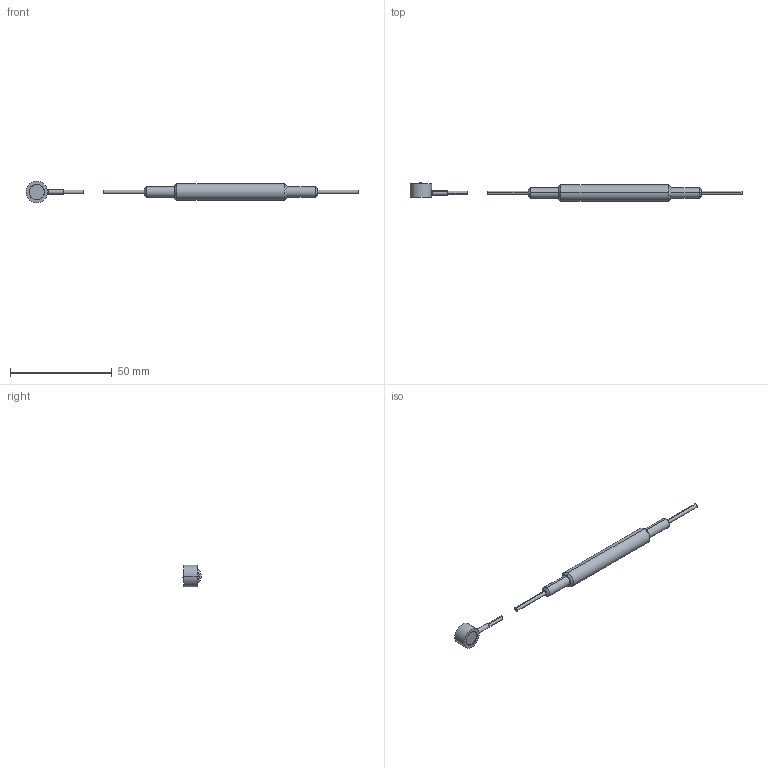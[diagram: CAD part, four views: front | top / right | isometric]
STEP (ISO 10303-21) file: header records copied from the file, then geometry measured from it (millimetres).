
FILE_DESCRIPTION(('STEP AP203'),'1');
FILE_NAME('C:/TPO v2/SharedFS/Outgoing/burster_8416-6002-v008_8yc6hqrjn6bor6oltcjybolin.stp','2013-08-28T19:56:24',('TraceParts'),('TraceParts S.A.'),'XStep 1.0',' ',' ');
FILE_SCHEMA(('CONFIG_CONTROL_DESIGN'));
Length unit declared in the file: millimetre
Products named in the file (2): 1; 2
Bounding box: 163.1 x 8.97 x 10.6 mm (x, y, z)
Volume: 4009.7 mm3; surface area: 2700.1 mm2
Topology: 2 solids, 2 shells, 61 faces, 136 edges, 87 vertices
Faces by surface type: cylinder 28, cone 12, plane 12, torus 8, sphere 1
Entity records: 1879 total; most frequent: CARTESIAN_POINT 360, DIRECTION 345, ORIENTED_EDGE 272, AXIS2_PLACEMENT_3D 154, EDGE_CURVE 136, CIRCLE 91, VERTEX_POINT 87, EDGE_LOOP 69
